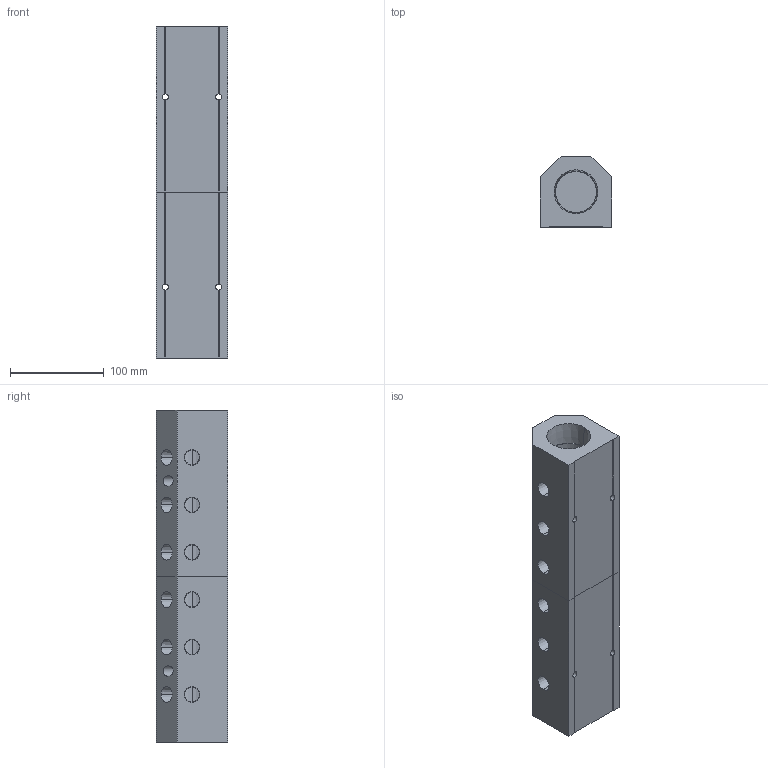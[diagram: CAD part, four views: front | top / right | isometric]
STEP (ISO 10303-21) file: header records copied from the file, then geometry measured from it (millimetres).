
FILE_DESCRIPTION (( 'STEP AP214' ), '1' );
FILE_NAME ('ALM6ABC-N6N24-355RB.step', '2022-02-07T09:16:02', ( '' ), ( '' ), 'SwSTEP 2.0', 'SolidWorks 2020', '' );
FILE_SCHEMA (( 'AUTOMOTIVE_DESIGN' ));
Length unit declared in the file: millimetre
Products named in the file (1): ALM6ABC-N6N24-355RB
Bounding box: 76.2 x 76.2 x 355 mm (x, y, z)
Volume: 1261334.6 mm3; surface area: 182513.9 mm2
Topology: 2 solids, 2 shells, 389 faces, 1036 edges, 684 vertices
Faces by surface type: plane 241, bspline 88, cone 40, cylinder 20
Entity records: 22700 total; most frequent: CARTESIAN_POINT 9866, ORIENTED_EDGE 2072, DIRECTION 1488, EDGE_CURVE 1036, LINE 732, VECTOR 732, VERTEX_POINT 684, EDGE_LOOP 466
